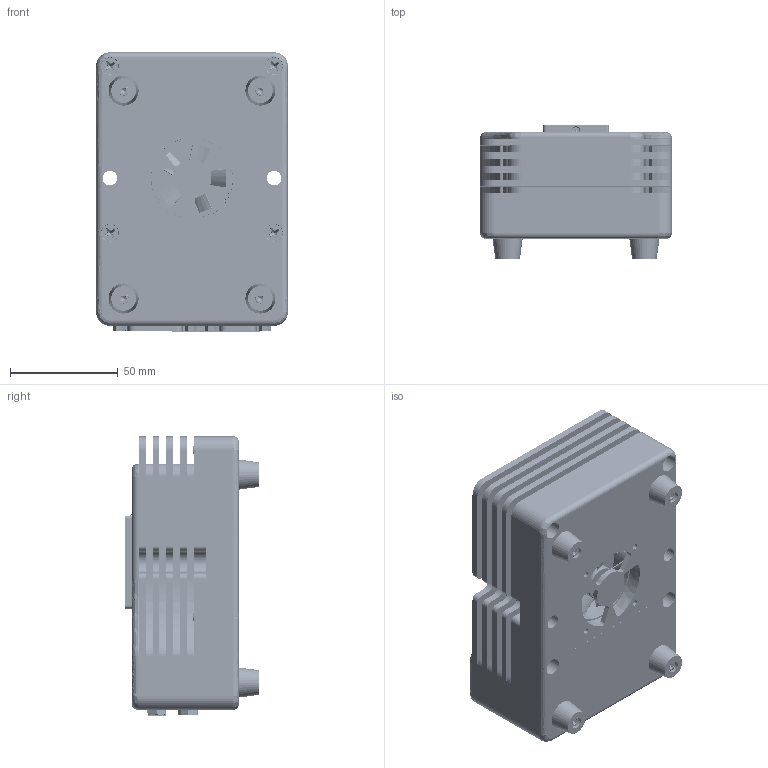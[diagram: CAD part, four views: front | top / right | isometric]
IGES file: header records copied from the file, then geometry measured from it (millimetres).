
Start section: SolidWorks IGES file using analytic representation for surfaces
Global section: file name: C:\Users\Mike\Dropbox\Mechanical Engr\Development Projects (P)\207 LaserMount\Customer Model Development\Step 2 - 207 TEC LaserMount.IGS; native system: SolidWorks 2014; preprocessor: SolidWorks 2014; author: Mike; date: 150227.211721; units: inch
Bounding box: 88.9 x 62.05 x 129.7 mm (x, y, z)
Surface area: 109201.8 mm2 (no closed solid volume)
Topology: 0 solids, 0 shells, 2861 faces, 33006 edges, 32924 vertices
Faces by surface type: bspline 2166, revolution 695
